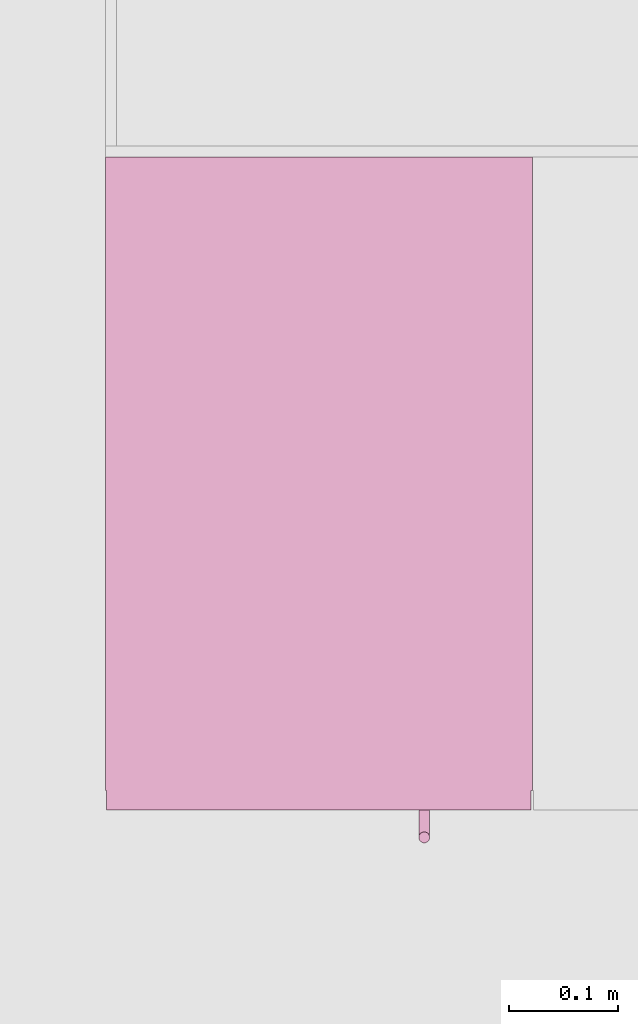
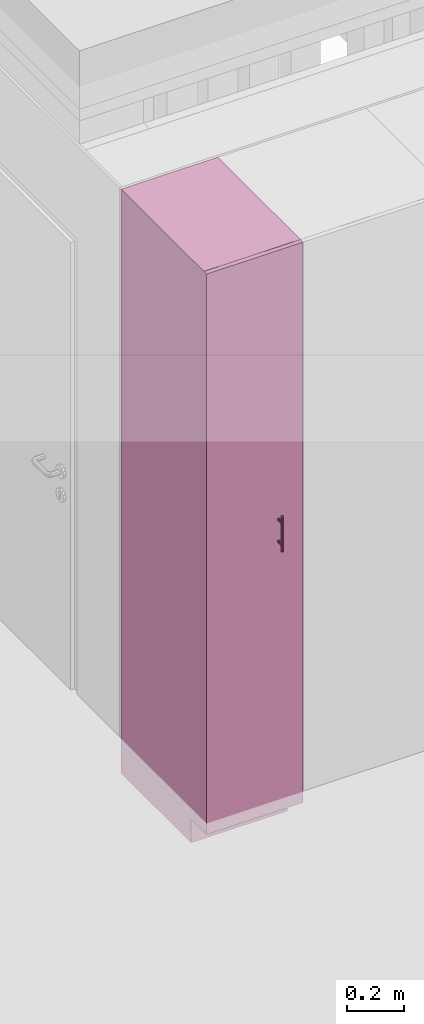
# One storey, part 34 of 34: 1 furniture element.
"""IFC4 building model written with IfcOpenShell, lengths in millimetres."""

import ifcopenshell
import ifcopenshell.guid

model = None  # the IFC model being written
_history = None  # IfcOwnerHistory: only IFC2X3 demands one
_inside = {}  # id of a spatial element -> (the spatial element, [elements in it])
_under = {}  # id of a project, library or spatial element -> (it, [spatial elements below it])
_declared = {}  # id of a project -> (the project, [libraries it declares])
_typed = {}  # id of a type object -> (the type object, [elements of that type])
_made_of = {}  # id of a material, layer set ... -> (it, [elements and type objects made of it])


def new_model(schema):
    """Start an empty IFC model of exactly this schema.

    Asked for "IFC4X3", IfcOpenShell would pick the latest addendum, in which some entities
    have other attributes; the version numbers below select the first issue.
    IFC2X3 requires an IfcOwnerHistory on every rooted entity: one is made here for all.
    """
    global model, _history
    if schema == "IFC4X3":
        model = ifcopenshell.file(schema_version=(4, 3, 0, 0))
    else:
        model = ifcopenshell.file(schema=schema)
    _inside.clear()
    _under.clear()
    _declared.clear()
    _typed.clear()
    _made_of.clear()
    _history = None
    if model.schema == "IFC2X3":
        org = make("IfcOrganization", Name="unknown")
        user = make(
            "IfcPersonAndOrganization",
            ThePerson=make("IfcPerson", FamilyName="unknown"),
            TheOrganization=org,
        )
        app = make(
            "IfcApplication",
            ApplicationDeveloper=org,
            Version="unknown",
            ApplicationFullName="unknown",
            ApplicationIdentifier="unknown",
        )
        _history = make(
            "IfcOwnerHistory",
            OwningUser=user,
            OwningApplication=app,
            ChangeAction="ADDED",
            CreationDate=0,
        )
    return model


def make(cls, **values):
    """One entity of the class cls with the attributes given. An attribute that is None is left unset."""
    return model.create_entity(
        cls, **{name: value for name, value in values.items() if value is not None}
    )


def entity(cls, *values):
    """Any entity or typed value of the class cls, its attributes in the order of the schema. None: left unset."""
    e = model.create_entity(cls)
    for i, value in enumerate(values):
        if value is not None:
            e[i] = value
    return e


def rooted(cls, **values):
    """An entity with a GlobalId (a new one), such as an element, a storey or a relation."""
    return make(cls, GlobalId=ifcopenshell.guid.new(), OwnerHistory=_history, **values)


def si_unit(unit_type, name, prefix=None):
    """IfcSIUnit, for example si_unit("LENGTHUNIT", "METRE", prefix="MILLI")."""
    return make("IfcSIUnit", UnitType=unit_type, Prefix=prefix, Name=name)


def converted_unit(unit_type, name, factor, base, dimensions=None, offset=None):
    """IfcConversionBasedUnit, such as the inch: factor (a typed value) times the base unit."""
    return make(
        "IfcConversionBasedUnit"
        if offset is None
        else "IfcConversionBasedUnitWithOffset",
        ConversionOffset=offset,
        Dimensions=None
        if dimensions is None
        else entity("IfcDimensionalExponents", *dimensions),
        UnitType=unit_type,
        Name=name,
        ConversionFactor=make(
            "IfcMeasureWithUnit", ValueComponent=factor, UnitComponent=base
        ),
    )


def derived_unit(unit_type, elements):
    """IfcDerivedUnit: a product of units, each with its exponent."""
    return make(
        "IfcDerivedUnit",
        Elements=[
            make("IfcDerivedUnitElement", Unit=unit, Exponent=power)
            for unit, power in elements
        ],
        UnitType=unit_type,
    )


def assignment(units):
    """IfcUnitAssignment: the units of a project."""
    return None if units is None else make("IfcUnitAssignment", Units=units)


def point(xyz):
    """IfcCartesianPoint."""
    return None if xyz is None else make("IfcCartesianPoint", Coordinates=xyz)


def direction(xyz):
    """IfcDirection."""
    return None if xyz is None else make("IfcDirection", DirectionRatios=xyz)


def frame(location, z_axis=None, x_axis=None):
    """IfcAxis2Placement3D, a coordinate frame: its origin and axes. An axis left out is left unset."""
    return make(
        "IfcAxis2Placement3D",
        Location=point(location),
        Axis=direction(z_axis),
        RefDirection=direction(x_axis),
    )


def origin_with_axes():
    """The frame at (0, 0, 0) with the z axis (0, 0, 1) and the x axis (1, 0, 0) written out."""
    return frame((0.0, 0.0, 0.0), z_axis=(0.0, 0.0, 1.0), x_axis=(1.0, 0.0, 0.0))


def place(relative_to, where):
    """IfcLocalPlacement: puts the frame where relative to a parent placement (None: the world)."""
    return make(
        "IfcLocalPlacement", PlacementRelTo=relative_to, RelativePlacement=where
    )


def context(
    kind, dimensions, precision=None, world=None, true_north=None, identifier=None
):
    """IfcGeometricRepresentationContext, for example the 3D "Model" context."""
    return make(
        "IfcGeometricRepresentationContext",
        ContextIdentifier=identifier,
        ContextType=kind,
        CoordinateSpaceDimension=dimensions,
        Precision=precision,
        WorldCoordinateSystem=world,
        TrueNorth=true_north,
    )


def subcontext(parent, identifier, kind, view, scale=None):
    """IfcGeometricRepresentationSubContext, for example "Body" below "Model"."""
    return make(
        "IfcGeometricRepresentationSubContext",
        ContextIdentifier=identifier,
        ContextType=kind,
        ParentContext=parent,
        TargetScale=scale,
        TargetView=view,
    )


def project(units=None, contexts=None):
    """IfcProject with its units and contexts."""
    return rooted(
        "IfcProject",
        Name="project",
        RepresentationContexts=contexts,
        UnitsInContext=assignment(units),
    )


def spatial(cls, under=None, at=None, **own):
    """A site, building, storey or space (cls), placed at a placement, below another one or the project."""
    s = rooted(cls, ObjectPlacement=at, **own)
    if under is not None:
        _under.setdefault(under.id(), (under, []))[1].append(s)
    return s


def point_list(points):
    """IfcCartesianPointList2D or 3D."""
    cls = (
        "IfcCartesianPointList2D" if len(points[0]) == 2 else "IfcCartesianPointList3D"
    )
    return make(cls, CoordList=points)


def polygons(points, faces, closed=None, point_numbers=None):
    """IfcPolygonalFaceSet: a face is its outer loop, then its inner loops; points numbered from 1."""
    made = []
    for loops in faces:
        if len(loops) == 1:
            made.append(make("IfcIndexedPolygonalFace", CoordIndex=loops[0]))
        else:
            made.append(
                make(
                    "IfcIndexedPolygonalFaceWithVoids",
                    CoordIndex=loops[0],
                    InnerCoordIndices=loops[1:],
                )
            )
    return make(
        "IfcPolygonalFaceSet",
        Coordinates=point_list(points),
        Closed=closed,
        Faces=made,
        PnIndex=point_numbers,
    )


def shape(context_of_items, identifier, shape_type, items):
    """IfcShapeRepresentation: the items that make up one representation, for example the "Body"."""
    return make(
        "IfcShapeRepresentation",
        ContextOfItems=context_of_items,
        RepresentationIdentifier=identifier,
        RepresentationType=shape_type,
        Items=items,
    )


def made_of(thing, what):
    """Note that an element or type object is made of a material, layer set ...; save() writes the relation."""
    if what is not None:
        _made_of.setdefault(what.id(), (what, []))[1].append(thing)
    return thing


def type_object(cls, material=None, **own):
    """A type object (cls), such as IfcWallType, which elements share."""
    return made_of(rooted(cls, **own), material)


def element(
    cls,
    number,
    at=None,
    inside=None,
    cuts=None,
    type_object=None,
    material=None,
    context=None,
    identifier="Body",
    shape_type=None,
    held_by="IfcProductDefinitionShape",
    body=None,
    shapes=None,
    **own,
):
    """One element of the class cls, such as IfcWall. Its Tag is "e" and its number.

    at: its placement. inside: the storey or other place that contains it. cuts: it is an
    opening in that element (IfcRelVoidsElement). A single representation is given by context,
    identifier, shape_type and body (its items); several are given by shapes. held_by: the class
    of the entity that holds the representations. save() writes the other relations.
    """
    e = rooted(cls, Tag="e%d" % number, ObjectPlacement=at, **own)
    if body is not None:
        shapes = [shape(context, identifier, shape_type, body)]
    if shapes is not None:
        e.Representation = make(held_by, Representations=shapes)
    if inside is not None:
        _inside.setdefault(inside.id(), (inside, []))[1].append(e)
    if cuts is not None:
        rooted(
            "IfcRelVoidsElement", RelatingBuildingElement=cuts, RelatedOpeningElement=e
        )
    if type_object is not None:
        _typed.setdefault(type_object.id(), (type_object, []))[1].append(e)
    return made_of(e, material)


def aggregate(whole, parts):
    """IfcRelAggregates: a whole, such as a stair, and the parts it consists of."""
    return rooted("IfcRelAggregates", RelatingObject=whole, RelatedObjects=parts)


def save(model, path):
    """Write the relations noted so far, then the file.

    IfcRelAggregates (storeys below a building ...), IfcRelContainedInSpatialStructure (elements
    in a storey), IfcRelDefinesByType, IfcRelAssociatesMaterial and IfcRelDeclares: one each for
    every whole, place, type object, material and project.
    """
    for whole, parts in _under.values():
        aggregate(whole, parts)
    for where, things in _inside.values():
        rooted(
            "IfcRelContainedInSpatialStructure",
            RelatedElements=things,
            RelatingStructure=where,
        )
    for kind, things in _typed.values():
        rooted("IfcRelDefinesByType", RelatedObjects=things, RelatingType=kind)
    for what, things in _made_of.values():
        rooted("IfcRelAssociatesMaterial", RelatedObjects=things, RelatingMaterial=what)
    for by, libraries in _declared.values():
        rooted("IfcRelDeclares", RelatingContext=by, RelatedDefinitions=libraries)
    model.write(path)


model = new_model("IFC4")

# Units and contexts
model_context = context("Model", 3, precision=0.01, world=origin_with_axes(), true_north=direction((0.0, 1.0)))
body_context = subcontext(model_context, "Body", "Model", "MODEL_VIEW")
ifc_project = project(units=[si_unit("LENGTHUNIT", "METRE", prefix="MILLI"), si_unit("AREAUNIT", "SQUARE_METRE"), si_unit("VOLUMEUNIT", "CUBIC_METRE"), converted_unit("PLANEANGLEUNIT", "DEGREE", entity("IfcPlaneAngleMeasure", 0.0174532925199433), si_unit("PLANEANGLEUNIT", "RADIAN"), dimensions=[0, 0, 0, 0, 0, 0, 0]), converted_unit("TIMEUNIT", "Year", entity("IfcTimeMeasure", 31557600.0), si_unit("TIMEUNIT", "SECOND"), dimensions=[0, 0, 1, 0, 0, 0, 0]), si_unit("MASSUNIT", "GRAM", prefix="KILO"), si_unit("THERMODYNAMICTEMPERATUREUNIT", "DEGREE_CELSIUS"), si_unit("LUMINOUSINTENSITYUNIT", "LUMEN"), si_unit("ENERGYUNIT", "JOULE", prefix="MEGA"), derived_unit("THERMALCONDUCTANCEUNIT", [(si_unit("POWERUNIT", "WATT"), 1), (si_unit("LENGTHUNIT", "METRE"), -1), (si_unit("THERMODYNAMICTEMPERATUREUNIT", "KELVIN"), -1)]), derived_unit("SPECIFICHEATCAPACITYUNIT", [(si_unit("ENERGYUNIT", "JOULE"), 1), (si_unit("MASSUNIT", "GRAM", prefix="KILO"), -1), (si_unit("THERMODYNAMICTEMPERATUREUNIT", "KELVIN"), -1)]), derived_unit("MASSDENSITYUNIT", [(si_unit("MASSUNIT", "GRAM", prefix="KILO"), 1), (si_unit("VOLUMEUNIT", "CUBIC_METRE"), -1)])], contexts=[model_context])

# Site, building, storey
site_placement = place(None, origin_with_axes())
site = spatial("IfcSite", under=ifc_project, at=site_placement, Name="Gelände", CompositionType="ELEMENT")
building_placement = place(site_placement, origin_with_axes())
building = spatial("IfcBuilding", under=site, at=building_placement, Name="Gebäude", CompositionType="ELEMENT")
storey_placement = place(building_placement, frame((0.0, 0.0, 5799.999999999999), z_axis=(0.0, 0.0, 1.0), x_axis=(1.0, 0.0, 0.0)))
storey = spatial("IfcBuildingStorey", under=building, at=storey_placement, Name="2.OG", CompositionType="ELEMENT", Elevation=5800.0)

# Furniture
furniture_type = type_object("IfcFurnitureType", Name="Stehender Schrank Block 27", AssemblyPlace="NOTDEFINED", PredefinedType="NOTDEFINED")
furniture_placement = place(storey_placement, frame((15418.99744477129, 27937.59728131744, 150.0000000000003), z_axis=(0.0, 0.0, 1.0), x_axis=(1.0, 0.0, 0.0)))
element("IfcFurniture", 1, at=furniture_placement, inside=storey, type_object=furniture_type, Name="Möbel-021", PredefinedType="NOTDEFINED", context=body_context, shape_type="Tessellation", body=[
    polygons([(292.8682408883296, -597.9999999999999, 1352.799038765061), (293.7101007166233, -597.9999999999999, 1352.573463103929), (294.4999999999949, -597.9999999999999, 1352.205127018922), (295.2139380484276, -597.9999999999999, 1351.705222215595), (295.8302222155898, -597.9999999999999, 1351.088938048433), (296.3301270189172, -597.9999999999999, 1350.375), (296.6984631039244, -597.9999999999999, 1349.585100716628), (296.924038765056, -597.9999999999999, 1348.743240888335), (296.9999999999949, -597.9999999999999, 1347.875), (296.924038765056, -597.9999999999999, 1347.006759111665), (296.6984631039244, -597.9999999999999, 1346.164899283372), (296.3301270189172, -597.9999999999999, 1345.375), (295.8302222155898, -597.9999999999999, 1344.661061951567), (295.2139380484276, -597.9999999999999, 1344.044777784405), (294.4999999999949, -597.9999999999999, 1343.544872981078), (293.7101007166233, -597.9999999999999, 1343.176536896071), (292.8682408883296, -597.9999999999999, 1342.950961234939), (291.9999999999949, -597.9999999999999, 1342.875), (291.1317591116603, -597.9999999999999, 1342.950961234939), (290.2898992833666, -597.9999999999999, 1343.176536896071), (289.4999999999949, -597.9999999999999, 1343.544872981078), (288.7860619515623, -597.9999999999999, 1344.044777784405), (288.1697777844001, -597.9999999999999, 1344.661061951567), (287.6698729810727, -597.9999999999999, 1345.375), (287.3015368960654, -597.9999999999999, 1346.164899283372), (287.0759612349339, -597.9999999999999, 1347.006759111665), (286.9999999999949, -597.9999999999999, 1347.875), (287.0759612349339, -597.9999999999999, 1348.743240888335), (287.3015368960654, -597.9999999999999, 1349.585100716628), (287.6698729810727, -597.9999999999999, 1350.375), (288.1697777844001, -597.9999999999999, 1351.088938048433), (288.7860619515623, -597.9999999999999, 1351.705222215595), (289.4999999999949, -597.9999999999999, 1352.205127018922), (290.2898992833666, -597.9999999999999, 1352.573463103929), (291.1317591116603, -597.9999999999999, 1352.799038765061), (291.9999999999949, -597.9999999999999, 1352.875), (292.8682408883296, -622.9999999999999, 1352.799038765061), (293.7101007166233, -622.9999999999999, 1352.573463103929), (294.4999999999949, -622.9999999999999, 1352.205127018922), (295.2139380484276, -622.9999999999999, 1351.705222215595), (295.8302222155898, -622.9999999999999, 1351.088938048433), (296.3301270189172, -622.9999999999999, 1350.375), (296.6984631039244, -622.9999999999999, 1349.585100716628), (296.924038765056, -622.9999999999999, 1348.743240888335), (296.9999999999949, -622.9999999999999, 1347.875), (296.924038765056, -622.9999999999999, 1347.006759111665), (296.6984631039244, -622.9999999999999, 1346.164899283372), (296.3301270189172, -622.9999999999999, 1345.375), (295.8302222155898, -622.9999999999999, 1344.661061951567), (295.2139380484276, -622.9999999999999, 1344.044777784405), (294.4999999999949, -622.9999999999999, 1343.544872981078), (293.7101007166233, -622.9999999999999, 1343.176536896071), (292.8682408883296, -622.9999999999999, 1342.950961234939), (291.9999999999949, -622.9999999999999, 1342.875), (291.1317591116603, -622.9999999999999, 1342.950961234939), (290.2898992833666, -622.9999999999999, 1343.176536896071), (289.4999999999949, -622.9999999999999, 1343.544872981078), (288.7860619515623, -622.9999999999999, 1344.044777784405), (288.1697777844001, -622.9999999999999, 1344.661061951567), (287.6698729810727, -622.9999999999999, 1345.375), (287.3015368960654, -622.9999999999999, 1346.164899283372), (287.0759612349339, -622.9999999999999, 1347.006759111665), (286.9999999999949, -622.9999999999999, 1347.875), (287.0759612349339, -622.9999999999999, 1348.743240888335), (287.3015368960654, -622.9999999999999, 1349.585100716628), (287.6698729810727, -622.9999999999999, 1350.375), (288.1697777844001, -622.9999999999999, 1351.088938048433), (288.7860619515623, -622.9999999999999, 1351.705222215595), (289.4999999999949, -622.9999999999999, 1352.205127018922), (290.2898992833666, -622.9999999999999, 1352.573463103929), (291.1317591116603, -622.9999999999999, 1352.799038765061), (291.9999999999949, -622.9999999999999, 1352.875)], [[[1, 2, 3, 4, 5, 6, 7, 8, 9, 10, 11, 12, 13, 14, 15, 16, 17, 18, 19, 20, 21, 22, 23, 24, 25, 26, 27, 28, 29, 30, 31, 32, 33, 34, 35, 36]], [[2, 1, 37, 38]], [[3, 2, 38, 39]], [[4, 3, 39, 40]], [[5, 4, 40, 41]], [[6, 5, 41, 42]], [[7, 6, 42, 43]], [[8, 7, 43, 44]], [[9, 8, 44, 45]], [[10, 9, 45, 46]], [[11, 10, 46, 47]], [[12, 11, 47, 48]], [[13, 12, 48, 49]], [[14, 13, 49, 50]], [[15, 14, 50, 51]], [[16, 15, 51, 52]], [[17, 16, 52, 53]], [[18, 17, 53, 54]], [[19, 18, 54, 55]], [[20, 19, 55, 56]], [[21, 20, 56, 57]], [[22, 21, 57, 58]], [[23, 22, 58, 59]], [[24, 23, 59, 60]], [[25, 24, 60, 61]], [[26, 25, 61, 62]], [[27, 26, 62, 63]], [[28, 27, 63, 64]], [[29, 28, 64, 65]], [[30, 29, 65, 66]], [[31, 30, 66, 67]], [[32, 31, 67, 68]], [[33, 32, 68, 69]], [[34, 33, 69, 70]], [[35, 34, 70, 71]], [[36, 35, 71, 72]], [[1, 36, 72, 37]], [[37, 72, 71, 70, 69, 68, 67, 66, 65, 64, 63, 62, 61, 60, 59, 58, 57, 56, 55, 54, 53, 52, 51, 50, 49, 48, 47, 46, 45, 44, 43, 42, 41, 40, 39, 38]]], closed=True),
    polygons([(292.8682408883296, -597.9999999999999, 1249.200961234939), (291.9999999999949, -597.9999999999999, 1249.125), (291.1317591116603, -597.9999999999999, 1249.200961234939), (290.2898992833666, -597.9999999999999, 1249.426536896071), (289.4999999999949, -597.9999999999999, 1249.794872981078), (288.7860619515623, -597.9999999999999, 1250.294777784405), (288.1697777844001, -597.9999999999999, 1250.911061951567), (287.6698729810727, -597.9999999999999, 1251.625), (287.3015368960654, -597.9999999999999, 1252.414899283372), (287.0759612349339, -597.9999999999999, 1253.256759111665), (286.9999999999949, -597.9999999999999, 1254.125), (287.0759612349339, -597.9999999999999, 1254.993240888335), (287.3015368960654, -597.9999999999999, 1255.835100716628), (287.6698729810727, -597.9999999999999, 1256.625), (288.1697777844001, -597.9999999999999, 1257.338938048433), (288.7860619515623, -597.9999999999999, 1257.955222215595), (289.4999999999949, -597.9999999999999, 1258.455127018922), (290.2898992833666, -597.9999999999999, 1258.823463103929), (291.1317591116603, -597.9999999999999, 1259.049038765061), (291.9999999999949, -597.9999999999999, 1259.125), (292.8682408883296, -597.9999999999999, 1259.049038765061), (293.7101007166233, -597.9999999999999, 1258.823463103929), (294.4999999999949, -597.9999999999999, 1258.455127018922), (295.2139380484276, -597.9999999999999, 1257.955222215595), (295.8302222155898, -597.9999999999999, 1257.338938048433), (296.3301270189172, -597.9999999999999, 1256.625), (296.6984631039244, -597.9999999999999, 1255.835100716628), (296.924038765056, -597.9999999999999, 1254.993240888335), (296.9999999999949, -597.9999999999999, 1254.125), (296.924038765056, -597.9999999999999, 1253.256759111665), (296.6984631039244, -597.9999999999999, 1252.414899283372), (296.3301270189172, -597.9999999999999, 1251.625), (295.8302222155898, -597.9999999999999, 1250.911061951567), (295.2139380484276, -597.9999999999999, 1250.294777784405), (294.4999999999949, -597.9999999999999, 1249.794872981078), (293.7101007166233, -597.9999999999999, 1249.426536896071), (292.8682408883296, -622.9999999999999, 1249.200961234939), (291.9999999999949, -622.9999999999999, 1249.125), (291.1317591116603, -622.9999999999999, 1249.200961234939), (290.2898992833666, -622.9999999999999, 1249.426536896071), (289.4999999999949, -622.9999999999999, 1249.794872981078), (288.7860619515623, -622.9999999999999, 1250.294777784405), (288.1697777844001, -622.9999999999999, 1250.911061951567), (287.6698729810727, -622.9999999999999, 1251.625), (287.3015368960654, -622.9999999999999, 1252.414899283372), (287.0759612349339, -622.9999999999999, 1253.256759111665), (286.9999999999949, -622.9999999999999, 1254.125), (287.0759612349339, -622.9999999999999, 1254.993240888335), (287.3015368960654, -622.9999999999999, 1255.835100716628), (287.6698729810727, -622.9999999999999, 1256.625), (288.1697777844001, -622.9999999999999, 1257.338938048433), (288.7860619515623, -622.9999999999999, 1257.955222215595), (289.4999999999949, -622.9999999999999, 1258.455127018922), (290.2898992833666, -622.9999999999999, 1258.823463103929), (291.1317591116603, -622.9999999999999, 1259.049038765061), (291.9999999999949, -622.9999999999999, 1259.125), (292.8682408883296, -622.9999999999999, 1259.049038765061), (293.7101007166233, -622.9999999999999, 1258.823463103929), (294.4999999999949, -622.9999999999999, 1258.455127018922), (295.2139380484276, -622.9999999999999, 1257.955222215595), (295.8302222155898, -622.9999999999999, 1257.338938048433), (296.3301270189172, -622.9999999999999, 1256.625), (296.6984631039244, -622.9999999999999, 1255.835100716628), (296.924038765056, -622.9999999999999, 1254.993240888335), (296.9999999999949, -622.9999999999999, 1254.125), (296.924038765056, -622.9999999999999, 1253.256759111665), (296.6984631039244, -622.9999999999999, 1252.414899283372), (296.3301270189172, -622.9999999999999, 1251.625), (295.8302222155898, -622.9999999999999, 1250.911061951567), (295.2139380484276, -622.9999999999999, 1250.294777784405), (294.4999999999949, -622.9999999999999, 1249.794872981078), (293.7101007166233, -622.9999999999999, 1249.426536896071)], [[[1, 2, 3, 4, 5, 6, 7, 8, 9, 10, 11, 12, 13, 14, 15, 16, 17, 18, 19, 20, 21, 22, 23, 24, 25, 26, 27, 28, 29, 30, 31, 32, 33, 34, 35, 36]], [[1, 37, 38, 2]], [[2, 38, 39, 3]], [[3, 39, 40, 4]], [[4, 40, 41, 5]], [[5, 41, 42, 6]], [[6, 42, 43, 7]], [[7, 43, 44, 8]], [[8, 44, 45, 9]], [[9, 45, 46, 10]], [[10, 46, 47, 11]], [[11, 47, 48, 12]], [[12, 48, 49, 13]], [[13, 49, 50, 14]], [[14, 50, 51, 15]], [[15, 51, 52, 16]], [[16, 52, 53, 17]], [[17, 53, 54, 18]], [[18, 54, 55, 19]], [[19, 55, 56, 20]], [[20, 56, 57, 21]], [[21, 57, 58, 22]], [[22, 58, 59, 23]], [[23, 59, 60, 24]], [[24, 60, 61, 25]], [[25, 61, 62, 26]], [[26, 62, 63, 27]], [[27, 63, 64, 28]], [[28, 64, 65, 29]], [[29, 65, 66, 30]], [[30, 66, 67, 31]], [[31, 67, 68, 32]], [[32, 68, 69, 33]], [[33, 69, 70, 34]], [[34, 70, 71, 35]], [[35, 71, 72, 36]], [[36, 72, 37, 1]], [[37, 72, 71, 70, 69, 68, 67, 66, 65, 64, 63, 62, 61, 60, 59, 58, 57, 56, 55, 54, 53, 52, 51, 50, 49, 48, 47, 46, 45, 44, 43, 42, 41, 40, 39, 38]]], closed=True),
    polygons([(292.8682408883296, -618.0759612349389, 1226.0), (293.7101007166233, -618.3015368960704, 1226.0), (294.4999999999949, -618.6698729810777, 1226.0), (295.2139380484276, -619.1697777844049, 1226.0), (295.8302222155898, -619.7860619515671, 1226.0), (296.3301270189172, -620.4999999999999, 1226.0), (296.6984631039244, -621.2898992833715, 1226.0), (296.924038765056, -622.1317591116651, 1226.0), (296.9999999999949, -622.9999999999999, 1226.0), (296.924038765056, -623.8682408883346, 1226.0), (296.6984631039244, -624.7101007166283, 1226.0), (296.3301270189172, -625.4999999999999, 1226.0), (295.8302222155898, -626.2139380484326, 1226.0), (295.2139380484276, -626.8302222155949, 1226.0), (294.4999999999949, -627.3301270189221, 1226.0), (293.7101007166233, -627.6984631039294, 1226.0), (292.8682408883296, -627.924038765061, 1226.0), (291.9999999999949, -627.9999999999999, 1226.0), (291.1317591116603, -627.924038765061, 1226.0), (290.2898992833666, -627.6984631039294, 1226.0), (289.4999999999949, -627.3301270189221, 1226.0), (288.7860619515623, -626.8302222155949, 1226.0), (288.1697777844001, -626.2139380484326, 1226.0), (287.6698729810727, -625.4999999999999, 1226.0), (287.3015368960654, -624.7101007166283, 1226.0), (287.0759612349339, -623.8682408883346, 1226.0), (286.9999999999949, -622.9999999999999, 1226.0), (287.0759612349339, -622.1317591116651, 1226.0), (287.3015368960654, -621.2898992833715, 1226.0), (287.6698729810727, -620.4999999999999, 1226.0), (288.1697777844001, -619.7860619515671, 1226.0), (288.7860619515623, -619.1697777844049, 1226.0), (289.4999999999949, -618.6698729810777, 1226.0), (290.2898992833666, -618.3015368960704, 1226.0), (291.1317591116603, -618.0759612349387, 1226.0), (291.9999999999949, -617.9999999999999, 1226.0), (292.8682408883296, -618.0759612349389, 1376.0), (293.7101007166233, -618.3015368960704, 1376.0), (294.4999999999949, -618.6698729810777, 1376.0), (295.2139380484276, -619.1697777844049, 1376.0), (295.8302222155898, -619.7860619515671, 1376.0), (296.3301270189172, -620.4999999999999, 1376.0), (296.6984631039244, -621.2898992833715, 1376.0), (296.924038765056, -622.1317591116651, 1376.0), (296.9999999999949, -622.9999999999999, 1376.0), (296.924038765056, -623.8682408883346, 1376.0), (296.6984631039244, -624.7101007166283, 1376.0), (296.3301270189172, -625.4999999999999, 1376.0), (295.8302222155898, -626.2139380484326, 1376.0), (295.2139380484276, -626.8302222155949, 1376.0), (294.4999999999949, -627.3301270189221, 1376.0), (293.7101007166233, -627.6984631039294, 1376.0), (292.8682408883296, -627.924038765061, 1376.0), (291.9999999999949, -627.9999999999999, 1376.0), (291.1317591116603, -627.924038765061, 1376.0), (290.2898992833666, -627.6984631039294, 1376.0), (289.4999999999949, -627.3301270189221, 1376.0), (288.7860619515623, -626.8302222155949, 1376.0), (288.1697777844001, -626.2139380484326, 1376.0), (287.6698729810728, -625.4999999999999, 1376.0), (287.3015368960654, -624.7101007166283, 1376.0), (287.0759612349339, -623.8682408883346, 1376.0), (286.9999999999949, -622.9999999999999, 1376.0), (287.0759612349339, -622.1317591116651, 1376.0), (287.3015368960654, -621.2898992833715, 1376.0), (287.6698729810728, -620.4999999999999, 1376.0), (288.1697777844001, -619.7860619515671, 1376.0), (288.7860619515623, -619.1697777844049, 1376.0), (289.4999999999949, -618.6698729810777, 1376.0), (290.2898992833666, -618.3015368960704, 1376.0), (291.1317591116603, -618.0759612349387, 1376.0), (291.9999999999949, -617.9999999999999, 1376.0)], [[[1, 2, 3, 4, 5, 6, 7, 8, 9, 10, 11, 12, 13, 14, 15, 16, 17, 18, 19, 20, 21, 22, 23, 24, 25, 26, 27, 28, 29, 30, 31, 32, 33, 34, 35, 36]], [[2, 1, 37, 38]], [[3, 2, 38, 39]], [[4, 3, 39, 40]], [[5, 4, 40, 41]], [[6, 5, 41, 42]], [[7, 6, 42, 43]], [[8, 7, 43, 44]], [[9, 8, 44, 45]], [[10, 9, 45, 46]], [[11, 10, 46, 47]], [[12, 11, 47, 48]], [[13, 12, 48, 49]], [[14, 13, 49, 50]], [[15, 14, 50, 51]], [[16, 15, 51, 52]], [[17, 16, 52, 53]], [[18, 17, 53, 54]], [[19, 18, 54, 55]], [[20, 19, 55, 56]], [[21, 20, 56, 57]], [[22, 21, 57, 58]], [[23, 22, 58, 59]], [[24, 23, 59, 60]], [[25, 24, 60, 61]], [[26, 25, 61, 62]], [[27, 26, 62, 63]], [[28, 27, 63, 64]], [[29, 28, 64, 65]], [[30, 29, 65, 66]], [[31, 30, 66, 67]], [[32, 31, 67, 68]], [[33, 32, 68, 69]], [[34, 33, 69, 70]], [[35, 34, 70, 71]], [[36, 35, 71, 72]], [[1, 36, 72, 37]], [[37, 72, 71, 70, 69, 68, 67, 66, 65, 64, 63, 62, 61, 60, 59, 58, 57, 56, 55, 54, 53, 52, 51, 50, 49, 48, 47, 46, 45, 44, 43, 42, 41, 40, 39, 38]]], closed=True),
    polygons([(1.0, -580.0, 101.0), (389.9999999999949, -580.0, 101.0), (389.9999999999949, -598.0, 101.0), (1.0, -598.0, 101.0), (1.0, -579.9999999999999, 2499.0), (389.9999999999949, -579.9999999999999, 2499.0), (389.9999999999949, -597.9999999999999, 2499.0), (1.0, -597.9999999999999, 2499.0)], [[[1, 2, 3, 4]], [[1, 5, 6, 2]], [[2, 6, 7, 3]], [[4, 3, 7, 8]], [[5, 1, 4, 8]], [[6, 5, 8, 7]]], closed=True),
    polygons([(18.0, -580.0, 100.0), (372.999999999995, -580.0, 100.0), (372.999999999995, -580.0, 118.0), (18.0, -580.0, 118.0), (18.0, 0.0, 100.0), (372.999999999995, 0.0, 100.0), (372.999999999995, 0.0, 118.0), (18.0, 0.0, 118.0)], [[[1, 2, 3, 4]], [[1, 5, 6, 2]], [[2, 6, 7, 3]], [[4, 3, 7, 8]], [[5, 1, 4, 8]], [[6, 5, 8, 7]]], closed=True),
    polygons([(18.0, -580.0, 2482.0), (372.999999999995, -580.0, 2482.0), (372.999999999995, -580.0, 2500.0), (18.0, -580.0, 2500.0), (18.0, 0.0, 2482.0), (372.999999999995, 0.0, 2482.0), (372.999999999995, 0.0, 2500.0), (18.0, 0.0, 2500.0)], [[[1, 2, 3, 4]], [[1, 5, 6, 2]], [[2, 6, 7, 3]], [[4, 3, 7, 8]], [[5, 1, 4, 8]], [[6, 5, 8, 7]]], closed=True),
    polygons([(0.0, 0.0, 100.0), (0.0, -580.0, 100.0), (0.0, -580.0, 2500.0), (0.0, 0.0, 2500.0), (18.0, 0.0, 100.0), (18.0, -580.0, 100.0), (18.0, -580.0, 2500.0), (18.0, 0.0, 2500.0)], [[[1, 2, 3, 4]], [[1, 5, 6, 2]], [[2, 6, 7, 3]], [[4, 3, 7, 8]], [[5, 1, 4, 8]], [[6, 5, 8, 7]]], closed=True),
    polygons([(390.999999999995, -580.0, 100.0), (390.999999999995, 0.0, 100.0), (390.999999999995, 0.0, 2500.0), (390.999999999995, -580.0, 2500.0), (372.999999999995, -580.0, 100.0), (372.999999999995, 0.0, 100.0), (372.999999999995, 0.0, 2500.0), (372.999999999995, -580.0, 2500.0)], [[[1, 2, 3, 4]], [[1, 5, 6, 2]], [[2, 6, 7, 3]], [[4, 3, 7, 8]], [[5, 1, 4, 8]], [[6, 5, 8, 7]]], closed=True),
    polygons([(372.999999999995, -9.0, 118.0), (18.00000000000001, -9.0, 118.0), (18.00000000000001, -9.0, 2482.0), (372.999999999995, -9.0, 2482.0), (372.999999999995, -18.0, 118.0), (18.00000000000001, -18.0, 118.0), (18.00000000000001, -18.0, 2482.0), (372.999999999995, -18.0, 2482.0)], [[[1, 2, 3, 4]], [[1, 5, 6, 2]], [[2, 6, 7, 3]], [[4, 3, 7, 8]], [[5, 1, 4, 8]], [[6, 5, 8, 7]]], closed=True),
    polygons([(0.0, -490.0, 0.0), (390.999999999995, -490.0, 0.0), (390.999999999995, -490.0, 100.0), (0.0, -490.0, 100.0), (0.0, 0.0, 0.0), (390.999999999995, 0.0, 0.0), (390.999999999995, 0.0, 100.0), (0.0, 0.0, 100.0)], [[[1, 2, 3, 4]], [[1, 5, 6, 2]], [[2, 6, 7, 3]], [[4, 3, 7, 8]], [[5, 1, 4, 8]], [[6, 5, 8, 7]]], closed=True),
])

save(model, "model.ifc")
